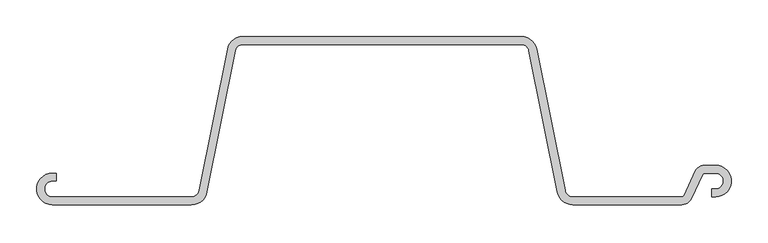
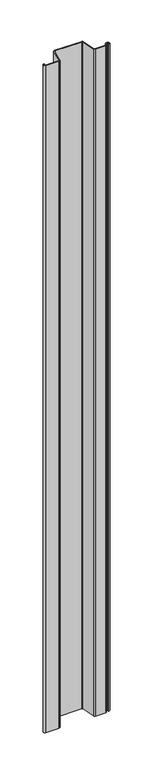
"""IFC4 building model written with IfcOpenShell, lengths in millimetres: proxy geometry, 鋼矢板10H型 : 鋼矢板10H型."""

from ifc_helpers import new_model, si_unit, point, frame, frame_2d, origin, place, context, project, spatial, polyline, circle_curve, trimmed, segment, composite_curve, outline, extrude, source, transform, mapped, element, save


def generic_models_77be9fe8(model_context):
    return source(origin(), model_context, "Body", "SweptSolid", [
        extrude(outline(composite_curve([segment(trimmed(circle_curve(frame_2d((409.1972607, -101.1142857)), 13.8857143), [point((421.7819917, -106.9826421))], [point((409.1972607, -115.0))], False, "CARTESIAN"), True, "CONTINUOUS"), segment(polyline([(409.1972607, -115.0), (260.2008232, -115.0)]), True, "CONTINUOUS"), segment(trimmed(circle_curve(frame_2d((260.2008232, -93.4)), 21.6), [point((260.2008232, -115.0))], [point((239.0202806, -97.6361085))], False, "CARTESIAN"), True, "CONTINUOUS"), segment(polyline([(239.0202806, -97.6361085), (200.3894481, 95.5180543)]), True, "CONTINUOUS"), segment(trimmed(circle_curve(frame_2d((189.7991768, 93.4)), 10.8), [point((200.3894481, 95.5180543))], [point((189.7991768, 104.2))], True, "CARTESIAN"), True, "CONTINUOUS"), segment(polyline([(189.7991768, 104.2), (-189.7991768, 104.2)]), True, "CONTINUOUS"), segment(trimmed(circle_curve(frame_2d((-189.7991768, 93.4)), 10.8), [point((-189.7991768, 104.2))], [point((-200.3894481, 95.5180543))], True, "CARTESIAN"), True, "CONTINUOUS"), segment(polyline([(-200.3894481, 95.5180543), (-239.0202806, -97.6361085)]), True, "CONTINUOUS"), segment(trimmed(circle_curve(frame_2d((-260.2008232, -93.4)), 21.6), [point((-239.0202806, -97.6361085))], [point((-260.2008232, -115.0))], False, "CARTESIAN"), True, "CONTINUOUS"), segment(polyline([(-260.2008232, -115.0), (-450.0, -115.0)]), True, "CONTINUOUS"), segment(trimmed(circle_curve(frame_2d((-450.0, -93.4)), 21.6), [point((-450.0, -115.0))], [point((-450.0, -71.8))], False, "CARTESIAN"), True, "CONTINUOUS"), segment(polyline([(-450.0, -71.8), (-445.0, -71.8), (-445.0, -82.6), (-450.0, -82.6)]), True, "CONTINUOUS"), segment(trimmed(circle_curve(frame_2d((-450.0, -93.4)), 10.8), [point((-450.0, -82.6))], [point((-450.0, -104.2))], True, "CARTESIAN"), True, "CONTINUOUS"), segment(polyline([(-450.0, -104.2), (-260.2008232, -104.2)]), True, "CONTINUOUS"), segment(trimmed(circle_curve(frame_2d((-260.2008232, -93.4)), 10.8), [point((-260.2008232, -104.2))], [point((-249.6105519, -95.5180543))], True, "CARTESIAN"), True, "CONTINUOUS"), segment(polyline([(-249.6105519, -95.5180543), (-210.9797194, 97.6361085)]), True, "CONTINUOUS"), segment(trimmed(circle_curve(frame_2d((-189.7991768, 93.4)), 21.6), [point((-210.9797194, 97.6361085))], [point((-189.7991768, 115.0))], False, "CARTESIAN"), True, "CONTINUOUS"), segment(polyline([(-189.7991768, 115.0), (189.7991768, 115.0)]), True, "CONTINUOUS"), segment(trimmed(circle_curve(frame_2d((189.7991768, 93.4)), 21.6), [point((189.7991768, 115.0))], [point((210.9797194, 97.6361085))], False, "CARTESIAN"), True, "CONTINUOUS"), segment(polyline([(210.9797194, 97.6361085), (249.6105519, -95.5180543)]), True, "CONTINUOUS"), segment(trimmed(circle_curve(frame_2d((260.2008232, -93.4)), 10.8), [point((249.6105519, -95.5180543))], [point((260.2008232, -104.2))], True, "CARTESIAN"), True, "CONTINUOUS"), segment(polyline([(260.2008232, -104.2), (409.1972607, -104.2)]), True, "CONTINUOUS"), segment(trimmed(circle_curve(frame_2d((409.1972607, -101.1142857)), 3.0857143), [point((409.1972607, -104.2))], [point((411.9938676, -102.4183649))], True, "CARTESIAN"), True, "CONTINUOUS"), segment(polyline([(411.9938676, -102.4183649), (427.569013, -69.0173579)]), True, "CONTINUOUS"), segment(trimmed(circle_curve(frame_2d((440.153744, -74.8857143)), 13.8857143), [point((427.569013, -69.0173579))], [point((440.153744, -61.0))], False, "CARTESIAN"), True, "CONTINUOUS"), segment(polyline([(440.153744, -61.0), (455.0, -61.0)]), True, "CONTINUOUS"), segment(trimmed(circle_curve(frame_2d((455.0, -82.6)), 21.6), [point((455.0, -61.0))], [point((455.0, -104.2))], False, "CARTESIAN"), True, "CONTINUOUS"), segment(polyline([(455.0, -104.2), (450.0, -104.2), (450.0, -93.4), (455.0, -93.4)]), True, "CONTINUOUS"), segment(trimmed(circle_curve(frame_2d((455.0, -82.6)), 10.8), [point((455.0, -93.4))], [point((455.0, -71.8))], True, "CARTESIAN"), True, "CONTINUOUS"), segment(polyline([(455.0, -71.8), (440.153744, -71.8)]), True, "CONTINUOUS"), segment(trimmed(circle_curve(frame_2d((440.153744, -74.8857143)), 3.0857143), [point((440.153744, -71.8))], [point((437.3571371, -73.5816351))], True, "CARTESIAN"), True, "CONTINUOUS"), segment(polyline([(437.3571371, -73.5816351), (421.7819917, -106.9826421)]), True, "CONTINUOUS")], self_intersect=False)), frame((0.0, 0.0, -10000.0), z_axis=(0.0, 0.0, 1.0), x_axis=(1.0, 0.0, 0.0)), (0.0, 0.0, 1.0), 10000.0),
    ])


if __name__ == "__main__":
    model = new_model("IFC4")
    model_context = context("Model", 3, world=origin())
    ifc_project = project(units=[si_unit("LENGTHUNIT", "METRE", prefix="MILLI")], contexts=[model_context])
    site = spatial("IfcSite", under=ifc_project)
    building = spatial("IfcBuilding", under=site)
    placement = place(None, origin())
    generic_models_shape = generic_models_77be9fe8(model_context)
    element("IfcBuildingElementProxy", 1, Name="鋼矢板10H型 : 鋼矢板10H型", ObjectType="鋼矢板10H型 : 鋼矢板10H型", at=placement, inside=building, context=model_context, shape_type="MappedRepresentation", body=[
        mapped(generic_models_shape, transform((0.0, 0.0, 0.0), x_axis=(1.0, 0.0, 0.0), y_axis=(0.0, 1.0, 0.0), z_axis=(0.0, 0.0, 1.0))),
    ])
    save(model, "model.ifc")
